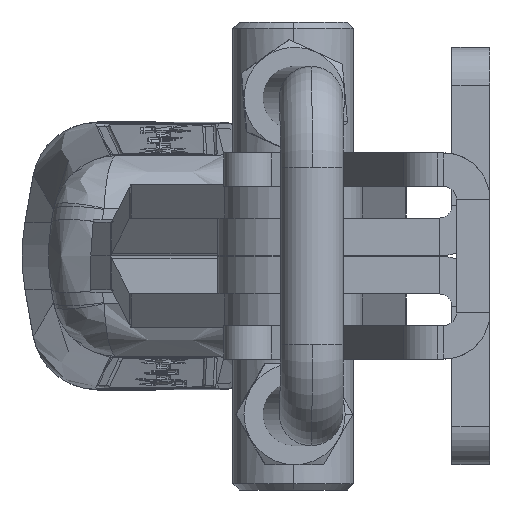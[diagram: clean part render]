
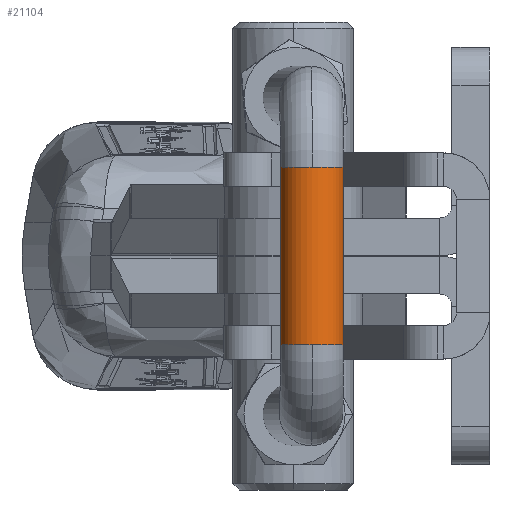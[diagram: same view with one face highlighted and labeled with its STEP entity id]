
A CAD part, left-side view. The second image highlights one B-rep face of the part: STEP entity #21104.
In plain terms, the highlighted cylindrical face has radius 2.5 mm (diameter 5 mm), a partial arc.
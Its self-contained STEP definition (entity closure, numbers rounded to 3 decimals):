
#1502 = DIRECTION ( 'NONE',  ( 0., 0., 1. ) ) ;
#2100 = ORIENTED_EDGE ( 'NONE', *, *, #23243, .T. ) ;
#2352 = CARTESIAN_POINT ( 'NONE',  ( 7., 122.5, 0. ) ) ;
#3228 = CARTESIAN_POINT ( 'NONE',  ( -7., 122.5, 2.5 ) ) ;
#3428 = AXIS2_PLACEMENT_3D ( 'NONE', #10843, #5388, #24260 ) ;
#4157 = CYLINDRICAL_SURFACE ( 'NONE', #3428, 2.5 ) ;
#4226 = CIRCLE ( 'NONE', #11551, 2.5 ) ;
#4753 = VERTEX_POINT ( 'NONE', #14374 ) ;
#4916 = ORIENTED_EDGE ( 'NONE', *, *, #15412, .F. ) ;
#4992 = FACE_OUTER_BOUND ( 'NONE', #6775, .T. ) ;
#5052 = DIRECTION ( 'NONE',  ( 0., 0., 1. ) ) ;
#5388 = DIRECTION ( 'NONE',  ( 1., 0., 0. ) ) ;
#5835 = DIRECTION ( 'NONE',  ( 1., 0., 0. ) ) ;
#5862 = CIRCLE ( 'NONE', #24698, 2.5 ) ;
#6735 = LINE ( 'NONE', #20516, #21058 ) ;
#6775 = EDGE_LOOP ( 'NONE', ( #18924, #32485, #2100, #10667, #28060, #4916 ) ) ;
#6993 = DIRECTION ( 'NONE',  ( 1., 0., 0. ) ) ;
#10667 = ORIENTED_EDGE ( 'NONE', *, *, #21020, .F. ) ;
#10843 = CARTESIAN_POINT ( 'NONE',  ( -7., 122.5, 0. ) ) ;
#11461 = CARTESIAN_POINT ( 'NONE',  ( 7., 122.5, 0. ) ) ;
#11480 = AXIS2_PLACEMENT_3D ( 'NONE', #33821, #17654, #1502 ) ;
#11551 = AXIS2_PLACEMENT_3D ( 'NONE', #21982, #5835, #24707 ) ;
#12423 = DIRECTION ( 'NONE',  ( 1., 0., 0. ) ) ;
#12496 = CARTESIAN_POINT ( 'NONE',  ( 7., 125., 0. ) ) ;
#13187 = CARTESIAN_POINT ( 'NONE',  ( -7., 122.5, -2.5 ) ) ;
#13613 = CARTESIAN_POINT ( 'NONE',  ( 7., 122.5, -2.5 ) ) ;
#13908 = CIRCLE ( 'NONE', #20382, 2.5 ) ;
#14205 = DIRECTION ( 'NONE',  ( 0., 0., 1. ) ) ;
#14374 = CARTESIAN_POINT ( 'NONE',  ( 7., 122.5, 2.5 ) ) ;
#15123 = CARTESIAN_POINT ( 'NONE',  ( -7., 122.5, 2.5 ) ) ;
#15412 = EDGE_CURVE ( 'NONE', #26016, #30729, #6735, .T. ) ;
#15455 = EDGE_CURVE ( 'NONE', #30729, #25852, #5862, .T. ) ;
#15489 = LINE ( 'NONE', #15123, #22635 ) ;
#17654 = DIRECTION ( 'NONE',  ( 1., 0., 0. ) ) ;
#18253 = CIRCLE ( 'NONE', #11480, 2.5 ) ;
#18924 = ORIENTED_EDGE ( 'NONE', *, *, #28877, .T. ) ;
#18982 = VERTEX_POINT ( 'NONE', #30034 ) ;
#20382 = AXIS2_PLACEMENT_3D ( 'NONE', #2352, #21202, #5052 ) ;
#20516 = CARTESIAN_POINT ( 'NONE',  ( -7., 122.5, -2.5 ) ) ;
#21020 = EDGE_CURVE ( 'NONE', #25852, #4753, #13908, .T. ) ;
#21058 = VECTOR ( 'NONE', #12423, 1000. ) ;
#21104 = ADVANCED_FACE ( 'NONE', ( #4992 ), #4157, .T. ) ;
#21202 = DIRECTION ( 'NONE',  ( 1., 0., 0. ) ) ;
#21982 = CARTESIAN_POINT ( 'NONE',  ( -7., 122.5, 0. ) ) ;
#22635 = VECTOR ( 'NONE', #6993, 1000. ) ;
#23243 = EDGE_CURVE ( 'NONE', #24878, #4753, #15489, .T. ) ;
#24260 = DIRECTION ( 'NONE',  ( 0., 0., -1. ) ) ;
#24698 = AXIS2_PLACEMENT_3D ( 'NONE', #11461, #30333, #14205 ) ;
#24707 = DIRECTION ( 'NONE',  ( 0., 0., 1. ) ) ;
#24878 = VERTEX_POINT ( 'NONE', #3228 ) ;
#25852 = VERTEX_POINT ( 'NONE', #12496 ) ;
#26016 = VERTEX_POINT ( 'NONE', #13187 ) ;
#27299 = EDGE_CURVE ( 'NONE', #18982, #24878, #18253, .T. ) ;
#28060 = ORIENTED_EDGE ( 'NONE', *, *, #15455, .F. ) ;
#28877 = EDGE_CURVE ( 'NONE', #26016, #18982, #4226, .T. ) ;
#30034 = CARTESIAN_POINT ( 'NONE',  ( -7., 125., 0. ) ) ;
#30333 = DIRECTION ( 'NONE',  ( 1., 0., 0. ) ) ;
#30729 = VERTEX_POINT ( 'NONE', #13613 ) ;
#32485 = ORIENTED_EDGE ( 'NONE', *, *, #27299, .T. ) ;
#33821 = CARTESIAN_POINT ( 'NONE',  ( -7., 122.5, 0. ) ) ;
